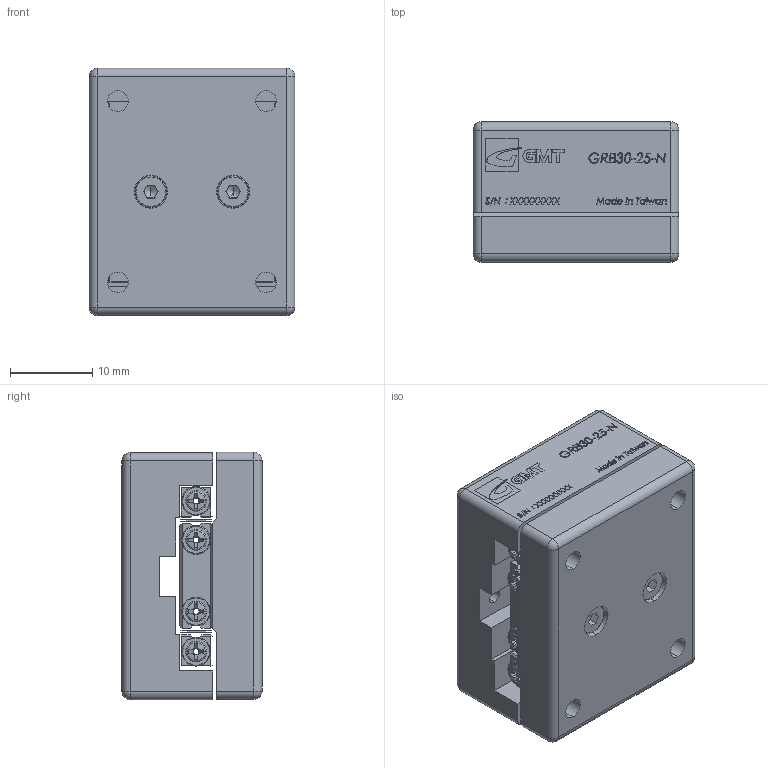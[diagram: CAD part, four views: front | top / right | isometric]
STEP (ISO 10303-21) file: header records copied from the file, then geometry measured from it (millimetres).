
FILE_DESCRIPTION (( 'STEP AP203' ), '1' );
FILE_NAME ('GRB30-25.STEP', '2012-10-19T04:03:18', ( '123' ), ( '' ), 'SwSTEP 2.0', 'SolidWorks 2012', '' );
FILE_SCHEMA (( 'CONFIG_CONTROL_DESIGN' ));
Length unit declared in the file: millimetre
Products named in the file (1): GRB30-25
Bounding box: 25 x 17 x 30.07 mm (x, y, z)
Surface area: 6164.8 mm2 (no closed solid volume)
Topology: 0 solids, 38 shells, 663 faces, 2735 edges, 2030 vertices
Faces by surface type: plane 402, cylinder 106, torus 56, cone 48, bspline 27, sphere 24
Entity records: 32747 total; most frequent: CARTESIAN_POINT 11084, DIRECTION 4263, ORIENTED_EDGE 3992, EDGE_CURVE 2715, VERTEX_POINT 2030, LINE 1641, VECTOR 1641, AXIS2_PLACEMENT_3D 1311
